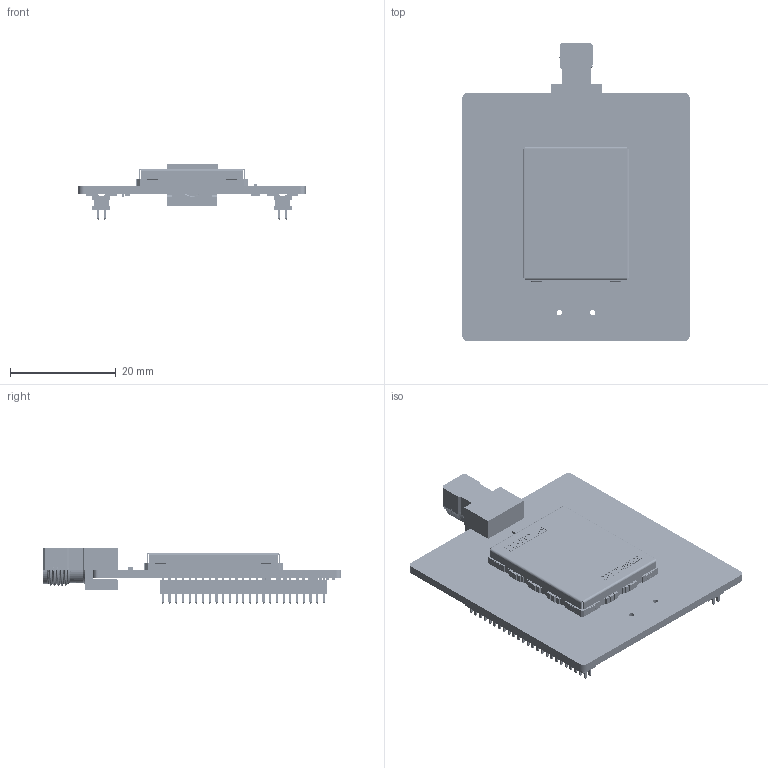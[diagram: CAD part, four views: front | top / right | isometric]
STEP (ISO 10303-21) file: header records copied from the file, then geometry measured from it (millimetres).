
FILE_DESCRIPTION(('Open CASCADE Model'),'2;1');
FILE_NAME('Open CASCADE Shape Model','2025-01-09T12:26:19',('Author'),( 'Open CASCADE'),'Open CASCADE STEP processor 7.5','Open CASCADE 7.5' ,'Unknown');
FILE_SCHEMA(('AUTOMOTIVE_DESIGN { 1 0 10303 214 1 1 1 1 }'));
Length unit declared in the file: millimetre
Products named in the file (136): PCB; Board; Open CASCADE STEP translator 7.5 1.1.1; C7; Cap_Murata_GJM1551C1H7R0DB01D_eec; body; side; Murata; SB2; R0201; 6971557008; Extruded; SB1; L9; Ind_Murata_LQG15HN39NJ02D_eec; 1; 2; Murata Logo 3; 3; SC2; s0981-46; 6971558848; SC13; Shield clip s0951-46; 6971557568; SC12; 6971557328; SC11; SC10; SC9; SB10; R0402; 6971551168; SB7; HW1; S02-25200300; X1; 6971558528; 6971558448; 6971558368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
Assembly tree (203 placements, depth 5):
  PCB
    Board
      Open CASCADE STEP translator 7.5 1.1.1
    C7
      Cap_Murata_GJM1551C1H7R0DB01D_eec
        body
        side  x2
        Murata
    SB2
      R0201
      6971557008
        Extruded
    SB1
      R0201
      6971557008
        Extruded
    L9
      Ind_Murata_LQG15HN39NJ02D_eec
        1
        2
        Murata Logo 3
        3
    SC2
      s0981-46
      6971558848
        Extruded
    SC13
      Shield clip s0951-46
      6971557568
        Extruded
    SC12
      Shield clip s0951-46
      6971557328
        Extruded
    SC11
      Shield clip s0951-46
      6971557328
        Extruded
    SC10
      Shield clip s0951-46
      6971557328
        Extruded
    SC9
      Shield clip s0951-46
      6971557328
        Extruded
    SB10
      R0402
      6971551168
        Extruded
    SB7
      R0402
      6971551168
        Extruded
    HW1
      S02-25200300
    X1
      6971558528
        Extruded
      6971558448
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Bounding box: 43 x 56.55 x 10.46 mm (x, y, z)
Volume: 4931.8 mm3; surface area: 10556.5 mm2
Topology: 273 solids, 273 shells, 16921 faces, 44033 edges, 27196 vertices
Faces by surface type: plane 8635, cylinder 3614, bspline 3514, sphere 804, torus 348, cone 6
Full cylindrical faces by diameter (mm): 0.03 x220, 0.5 x2, 0.991 x1, 1 x2, 4.674 x1, 5.08 x1, 5.385 x1
Entity records: 149131 total; most frequent: CARTESIAN_POINT 38058, ORIENTED_EDGE 21332, DIRECTION 19028, EDGE_CURVE 10666, LINE 8312, VECTOR 8312, VERTEX_POINT 6804, AXIS2_PLACEMENT_3D 5358
